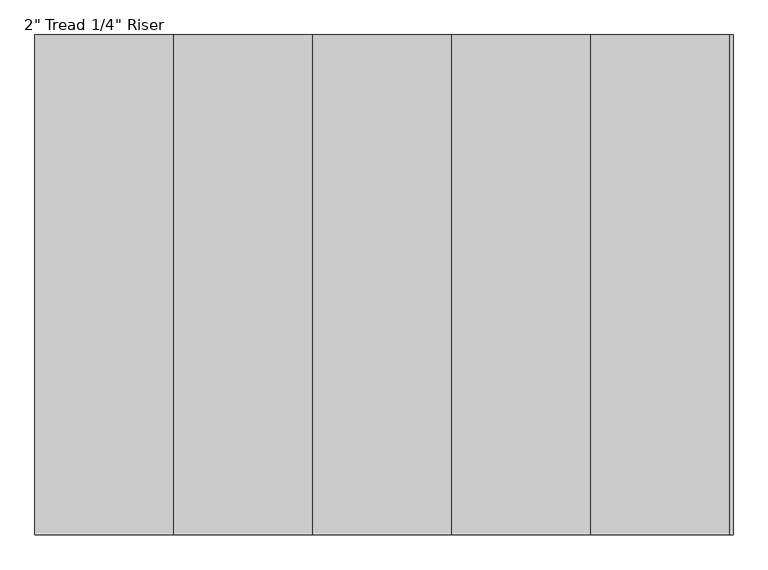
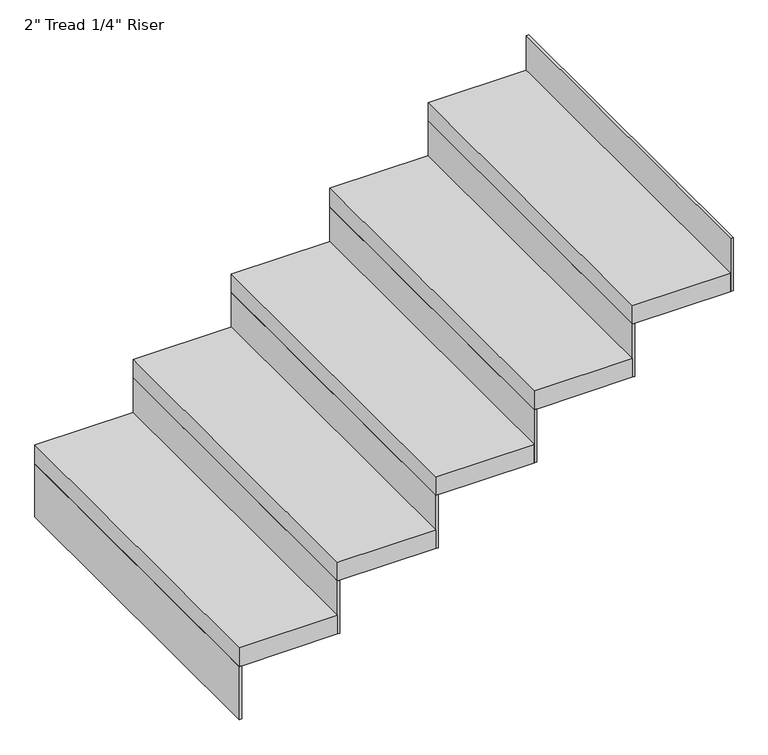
"""IFC4 building model written with IfcOpenShell, lengths in millimetres: stair flight geometry."""

import ifcopenshell
import ifcopenshell.guid

model = None  # the IFC model being written
_history = None  # IfcOwnerHistory: only IFC2X3 demands one
_inside = {}  # id of a spatial element -> (the spatial element, [elements in it])
_under = {}  # id of a project, library or spatial element -> (it, [spatial elements below it])
_declared = {}  # id of a project -> (the project, [libraries it declares])
_typed = {}  # id of a type object -> (the type object, [elements of that type])
_made_of = {}  # id of a material, layer set ... -> (it, [elements and type objects made of it])


def new_model(schema):
    """Start an empty IFC model of exactly this schema.

    Asked for "IFC4X3", IfcOpenShell would pick the latest addendum, in which some entities
    have other attributes; the version numbers below select the first issue.
    IFC2X3 requires an IfcOwnerHistory on every rooted entity: one is made here for all.
    """
    global model, _history
    if schema == "IFC4X3":
        model = ifcopenshell.file(schema_version=(4, 3, 0, 0))
    else:
        model = ifcopenshell.file(schema=schema)
    _inside.clear()
    _under.clear()
    _declared.clear()
    _typed.clear()
    _made_of.clear()
    _history = None
    if model.schema == "IFC2X3":
        org = make("IfcOrganization", Name="unknown")
        user = make(
            "IfcPersonAndOrganization",
            ThePerson=make("IfcPerson", FamilyName="unknown"),
            TheOrganization=org,
        )
        app = make(
            "IfcApplication",
            ApplicationDeveloper=org,
            Version="unknown",
            ApplicationFullName="unknown",
            ApplicationIdentifier="unknown",
        )
        _history = make(
            "IfcOwnerHistory",
            OwningUser=user,
            OwningApplication=app,
            ChangeAction="ADDED",
            CreationDate=0,
        )
    return model


def make(cls, **values):
    """One entity of the class cls with the attributes given. An attribute that is None is left unset."""
    return model.create_entity(
        cls, **{name: value for name, value in values.items() if value is not None}
    )


def rooted(cls, **values):
    """An entity with a GlobalId (a new one), such as an element, a storey or a relation."""
    return make(cls, GlobalId=ifcopenshell.guid.new(), OwnerHistory=_history, **values)


def si_unit(unit_type, name, prefix=None):
    """IfcSIUnit, for example si_unit("LENGTHUNIT", "METRE", prefix="MILLI")."""
    return make("IfcSIUnit", UnitType=unit_type, Prefix=prefix, Name=name)


def assignment(units):
    """IfcUnitAssignment: the units of a project."""
    return None if units is None else make("IfcUnitAssignment", Units=units)


def point(xyz):
    """IfcCartesianPoint."""
    return None if xyz is None else make("IfcCartesianPoint", Coordinates=xyz)


def direction(xyz):
    """IfcDirection."""
    return None if xyz is None else make("IfcDirection", DirectionRatios=xyz)


def frame(location, z_axis=None, x_axis=None):
    """IfcAxis2Placement3D, a coordinate frame: its origin and axes. An axis left out is left unset."""
    return make(
        "IfcAxis2Placement3D",
        Location=point(location),
        Axis=direction(z_axis),
        RefDirection=direction(x_axis),
    )


def origin():
    """The frame at (0, 0, 0) with its axes left unset."""
    return frame((0.0, 0.0, 0.0))


def place(relative_to, where):
    """IfcLocalPlacement: puts the frame where relative to a parent placement (None: the world)."""
    return make(
        "IfcLocalPlacement", PlacementRelTo=relative_to, RelativePlacement=where
    )


def context(
    kind, dimensions, precision=None, world=None, true_north=None, identifier=None
):
    """IfcGeometricRepresentationContext, for example the 3D "Model" context."""
    return make(
        "IfcGeometricRepresentationContext",
        ContextIdentifier=identifier,
        ContextType=kind,
        CoordinateSpaceDimension=dimensions,
        Precision=precision,
        WorldCoordinateSystem=world,
        TrueNorth=true_north,
    )


def project(units=None, contexts=None):
    """IfcProject with its units and contexts."""
    return rooted(
        "IfcProject",
        Name="project",
        RepresentationContexts=contexts,
        UnitsInContext=assignment(units),
    )


def spatial(cls, under=None, at=None, **own):
    """A site, building, storey or space (cls), placed at a placement, below another one or the project."""
    s = rooted(cls, ObjectPlacement=at, **own)
    if under is not None:
        _under.setdefault(under.id(), (under, []))[1].append(s)
    return s


def polyline(points):
    """IfcPolyline through the points."""
    return make("IfcPolyline", Points=[point(p) for p in points])


def outline(outer, holes=None, kind="AREA"):
    """IfcArbitraryClosedProfileDef: a profile drawn as a closed curve; with holes, ...WithVoids."""
    if holes is None:
        return make("IfcArbitraryClosedProfileDef", ProfileType=kind, OuterCurve=outer)
    return make(
        "IfcArbitraryProfileDefWithVoids",
        ProfileType=kind,
        OuterCurve=outer,
        InnerCurves=holes,
    )


def extrude(swept, where, along, depth):
    """IfcExtrudedAreaSolid: the profile swept, set in the frame where, extruded along a direction by depth."""
    return make(
        "IfcExtrudedAreaSolid",
        SweptArea=swept,
        Position=where,
        ExtrudedDirection=direction(along),
        Depth=depth,
    )


def shape(context_of_items, identifier, shape_type, items):
    """IfcShapeRepresentation: the items that make up one representation, for example the "Body"."""
    return make(
        "IfcShapeRepresentation",
        ContextOfItems=context_of_items,
        RepresentationIdentifier=identifier,
        RepresentationType=shape_type,
        Items=items,
    )


def source(mapping_origin, context_of_items, identifier, shape_type, items):
    """IfcRepresentationMap: a shape defined once, which mapped items show again and again."""
    return make(
        "IfcRepresentationMap",
        MappingOrigin=mapping_origin,
        MappedRepresentation=shape(context_of_items, identifier, shape_type, items),
    )


def transform(
    local_origin,
    x_axis=None,
    y_axis=None,
    z_axis=None,
    scale=None,
    scale2=None,
    scale3=None,
    uniform=True,
):
    """IfcCartesianTransformationOperator3D, or its non-uniform kind. x_axis, y_axis, z_axis: its Axis1, 2, 3."""
    if uniform:
        return make(
            "IfcCartesianTransformationOperator3D",
            Axis1=direction(x_axis),
            Axis2=direction(y_axis),
            LocalOrigin=point(local_origin),
            Scale=scale,
            Axis3=direction(z_axis),
        )
    return make(
        "IfcCartesianTransformationOperator3DnonUniform",
        Axis1=direction(x_axis),
        Axis2=direction(y_axis),
        LocalOrigin=point(local_origin),
        Scale=scale,
        Axis3=direction(z_axis),
        Scale2=scale2,
        Scale3=scale3,
    )


def mapped(mapping_source, mapping_target):
    """IfcMappedItem: shows the shape of a source again, moved by a transform."""
    return make(
        "IfcMappedItem", MappingSource=mapping_source, MappingTarget=mapping_target
    )


def made_of(thing, what):
    """Note that an element or type object is made of a material, layer set ...; save() writes the relation."""
    if what is not None:
        _made_of.setdefault(what.id(), (what, []))[1].append(thing)
    return thing


def element(
    cls,
    number,
    at=None,
    inside=None,
    cuts=None,
    type_object=None,
    material=None,
    context=None,
    identifier="Body",
    shape_type=None,
    held_by="IfcProductDefinitionShape",
    body=None,
    shapes=None,
    **own,
):
    """One element of the class cls, such as IfcWall. Its Tag is "e" and its number.

    at: its placement. inside: the storey or other place that contains it. cuts: it is an
    opening in that element (IfcRelVoidsElement). A single representation is given by context,
    identifier, shape_type and body (its items); several are given by shapes. held_by: the class
    of the entity that holds the representations. save() writes the other relations.
    """
    e = rooted(cls, Tag="e%d" % number, ObjectPlacement=at, **own)
    if body is not None:
        shapes = [shape(context, identifier, shape_type, body)]
    if shapes is not None:
        e.Representation = make(held_by, Representations=shapes)
    if inside is not None:
        _inside.setdefault(inside.id(), (inside, []))[1].append(e)
    if cuts is not None:
        rooted(
            "IfcRelVoidsElement", RelatingBuildingElement=cuts, RelatedOpeningElement=e
        )
    if type_object is not None:
        _typed.setdefault(type_object.id(), (type_object, []))[1].append(e)
    return made_of(e, material)


def aggregate(whole, parts):
    """IfcRelAggregates: a whole, such as a stair, and the parts it consists of."""
    return rooted("IfcRelAggregates", RelatingObject=whole, RelatedObjects=parts)


def save(model, path):
    """Write the relations noted so far, then the file.

    IfcRelAggregates (storeys below a building ...), IfcRelContainedInSpatialStructure (elements
    in a storey), IfcRelDefinesByType, IfcRelAssociatesMaterial and IfcRelDeclares: one each for
    every whole, place, type object, material and project.
    """
    for whole, parts in _under.values():
        aggregate(whole, parts)
    for where, things in _inside.values():
        rooted(
            "IfcRelContainedInSpatialStructure",
            RelatedElements=things,
            RelatingStructure=where,
        )
    for kind, things in _typed.values():
        rooted("IfcRelDefinesByType", RelatedObjects=things, RelatingType=kind)
    for what, things in _made_of.values():
        rooted("IfcRelAssociatesMaterial", RelatedObjects=things, RelatingMaterial=what)
    for by, libraries in _declared.values():
        rooted("IfcRelDeclares", RelatingContext=by, RelatedDefinitions=libraries)
    model.write(path)


def stair_flight_fd0bef6d(model_context):
    return source(origin(), model_context, "Body", "SweptSolid", [
        extrude(outline(polyline([(89180.9548368, 15846.0395941), (89174.6048368, 15846.0395941), (89174.6048368, 16760.4395941), (89180.9548368, 16760.4395941), (89180.9548368, 15846.0395941)])), frame((0.0, 0.0, 2126.3428571), z_axis=(0.0, 0.0, 1.0), x_axis=(1.0, 0.0, 0.0)), (0.0, 0.0, 1.0), 145.1428571),
        extrude(outline(polyline([(89428.6048368, 16760.4395941), (89428.6048368, 15846.0395941), (89174.6048368, 15846.0395941), (89174.6048368, 16760.4395941), (89428.6048368, 16760.4395941)])), frame((0.0, 0.0, 2271.4857143), z_axis=(0.0, 0.0, 1.0), x_axis=(1.0, 0.0, 0.0)), (0.0, 0.0, 1.0), 50.8),
        extrude(outline(polyline([(89434.9548368, 15846.0395941), (89428.6048368, 15846.0395941), (89428.6048368, 16760.4395941), (89434.9548368, 16760.4395941), (89434.9548368, 15846.0395941)])), frame((0.0, 0.0, 2271.4857143), z_axis=(0.0, 0.0, 1.0), x_axis=(1.0, 0.0, 0.0)), (0.0, 0.0, 1.0), 145.1428571),
        extrude(outline(polyline([(89682.6048368, 16760.4395941), (89682.6048368, 15846.0395941), (89428.6048368, 15846.0395941), (89428.6048368, 16760.4395941), (89682.6048368, 16760.4395941)])), frame((0.0, 0.0, 2416.6285714), z_axis=(0.0, 0.0, 1.0), x_axis=(1.0, 0.0, 0.0)), (0.0, 0.0, 1.0), 50.8),
        extrude(outline(polyline([(89688.9548368, 15846.0395941), (89682.6048368, 15846.0395941), (89682.6048368, 16760.4395941), (89688.9548368, 16760.4395941), (89688.9548368, 15846.0395941)])), frame((0.0, 0.0, 2416.6285714), z_axis=(0.0, 0.0, 1.0), x_axis=(1.0, 0.0, 0.0)), (0.0, 0.0, 1.0), 145.1428571),
        extrude(outline(polyline([(89936.6048368, 16760.4395941), (89936.6048368, 15846.0395941), (89682.6048368, 15846.0395941), (89682.6048368, 16760.4395941), (89936.6048368, 16760.4395941)])), frame((0.0, 0.0, 2561.7714286), z_axis=(0.0, 0.0, 1.0), x_axis=(1.0, 0.0, 0.0)), (0.0, 0.0, 1.0), 50.8),
        extrude(outline(polyline([(89942.9548368, 15846.0395941), (89936.6048368, 15846.0395941), (89936.6048368, 16760.4395941), (89942.9548368, 16760.4395941), (89942.9548368, 15846.0395941)])), frame((0.0, 0.0, 2561.7714286), z_axis=(0.0, 0.0, 1.0), x_axis=(1.0, 0.0, 0.0)), (0.0, 0.0, 1.0), 145.1428571),
        extrude(outline(polyline([(90190.6048368, 16760.4395941), (90190.6048368, 15846.0395941), (89936.6048368, 15846.0395941), (89936.6048368, 16760.4395941), (90190.6048368, 16760.4395941)])), frame((0.0, 0.0, 2706.9142857), z_axis=(0.0, 0.0, 1.0), x_axis=(1.0, 0.0, 0.0)), (0.0, 0.0, 1.0), 50.8),
        extrude(outline(polyline([(90196.9548368, 15846.0395941), (90190.6048368, 15846.0395941), (90190.6048368, 16760.4395941), (90196.9548368, 16760.4395941), (90196.9548368, 15846.0395941)])), frame((0.0, 0.0, 2706.9142857), z_axis=(0.0, 0.0, 1.0), x_axis=(1.0, 0.0, 0.0)), (0.0, 0.0, 1.0), 145.1428571),
        extrude(outline(polyline([(90450.9548368, 15846.0395941), (90444.6048368, 15846.0395941), (90444.6048368, 16760.4395941), (90450.9548368, 16760.4395941), (90450.9548368, 15846.0395941)])), frame((0.0, 0.0, 2852.0571429), z_axis=(0.0, 0.0, 1.0), x_axis=(1.0, 0.0, 0.0)), (0.0, 0.0, 1.0), 145.1428571),
        extrude(outline(polyline([(90444.6048368, 16760.4395941), (90444.6048368, 15846.0395941), (90190.6048368, 15846.0395941), (90190.6048368, 16760.4395941), (90444.6048368, 16760.4395941)])), frame((0.0, 0.0, 2852.0571429), z_axis=(0.0, 0.0, 1.0), x_axis=(1.0, 0.0, 0.0)), (0.0, 0.0, 1.0), 50.8),
    ])


if __name__ == "__main__":
    model = new_model("IFC4")
    model_context = context("Model", 3, world=origin())
    ifc_project = project(units=[si_unit("LENGTHUNIT", "METRE", prefix="MILLI")], contexts=[model_context])
    site = spatial("IfcSite", under=ifc_project)
    building = spatial("IfcBuilding", under=site)
    placement = place(None, origin())
    stair_flight_shape = stair_flight_fd0bef6d(model_context)
    element("IfcStairFlight", 1, ObjectType="2\" Tread 1/4\" Riser", at=placement, inside=building, context=model_context, shape_type="MappedRepresentation", body=[
        mapped(stair_flight_shape, transform((0.0, 0.0, 0.0), x_axis=(1.0, 0.0, 0.0), y_axis=(0.0, 1.0, 0.0), z_axis=(0.0, 0.0, 1.0))),
    ])
    save(model, "model.ifc")
